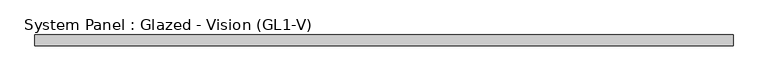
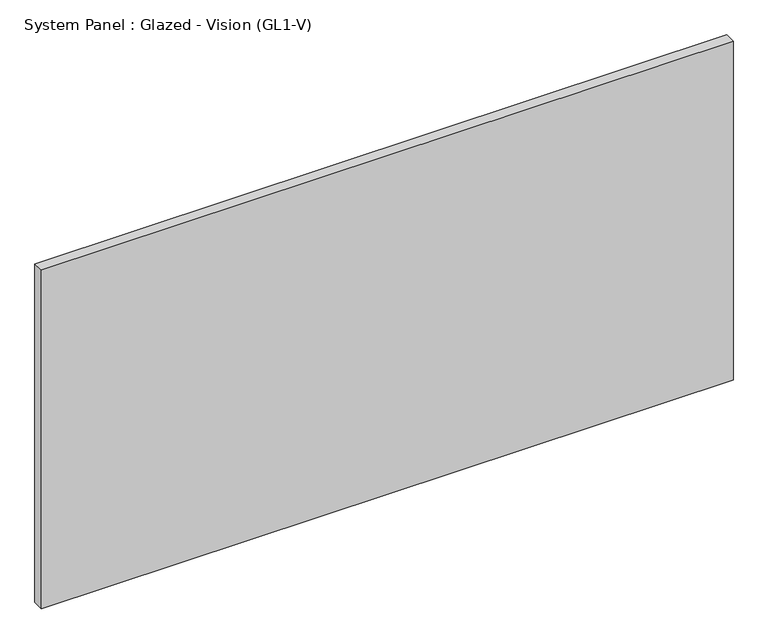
"""IFC4 building model written with IfcOpenShell, lengths in millimetres: plate geometry, System Panel : Glazed - Vision (GL1-V)."""

from ifc_helpers import new_model, si_unit, origin, origin_with_axes, place, context, project, spatial, polyline, outline, extrude, source, transform, mapped, element, save


def system_panel_glazed_vision_gl1_v_73038126(model_context):
    return source(origin(), model_context, "Body", "SweptSolid", [
        extrude(outline(polyline([(803.275003, 0.0), (-803.275003, 0.0), (-803.275003, 25.4), (803.275003, 25.4), (803.275003, 0.0)])), origin_with_axes(), (0.0, 0.0, 1.0), 831.85),
    ])


if __name__ == "__main__":
    model = new_model("IFC4")
    model_context = context("Model", 3, world=origin())
    ifc_project = project(units=[si_unit("LENGTHUNIT", "METRE", prefix="MILLI")], contexts=[model_context])
    site = spatial("IfcSite", under=ifc_project)
    building = spatial("IfcBuilding", under=site)
    placement = place(None, origin())
    system_panel_glazed_vision_gl1_v_shape = system_panel_glazed_vision_gl1_v_73038126(model_context)
    element("IfcPlate", 1, ObjectType="System Panel : Glazed - Vision (GL1-V)", at=placement, inside=building, context=model_context, shape_type="MappedRepresentation", body=[
        mapped(system_panel_glazed_vision_gl1_v_shape, transform((0.0, 0.0, 0.0), x_axis=(1.0, 0.0, 0.0), y_axis=(0.0, 1.0, 0.0), z_axis=(0.0, 0.0, 1.0))),
    ])
    save(model, "model.ifc")
